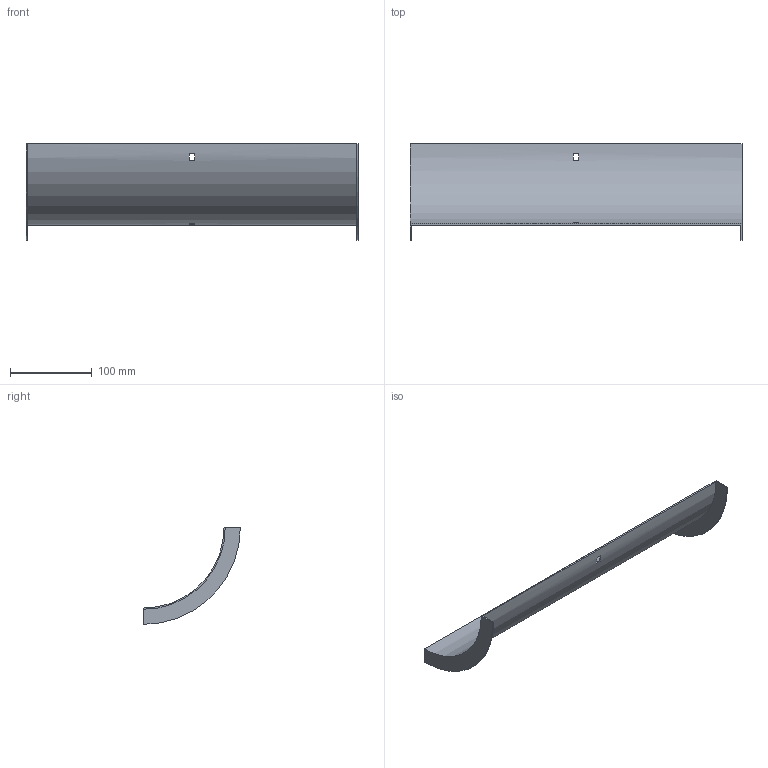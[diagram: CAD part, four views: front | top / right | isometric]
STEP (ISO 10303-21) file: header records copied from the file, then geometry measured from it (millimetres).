
FILE_DESCRIPTION (( 'STEP AP214' ), '1' );
FILE_NAME ('30N1R400.step', '2025-02-21T09:24:08', ( '' ), ( '' ), 'SwSTEP 2.0', 'SolidWorks 2023', '' );
FILE_SCHEMA (( 'AUTOMOTIVE_DESIGN' ));
Length unit declared in the file: millimetre
Products named in the file (1): 30N1R400
Bounding box: 407 x 118.5 x 118.5 mm (x, y, z)
Volume: 104524.2 mm3; surface area: 141346.8 mm2
Topology: 1 solids, 1 shells, 18 faces, 48 edges, 32 vertices
Faces by surface type: plane 14, cylinder 4
Entity records: 599 total; most frequent: DIRECTION 102, CARTESIAN_POINT 99, ORIENTED_EDGE 96, EDGE_CURVE 48, AXIS2_PLACEMENT_3D 35, VERTEX_POINT 32, VECTOR 32, LINE 32
